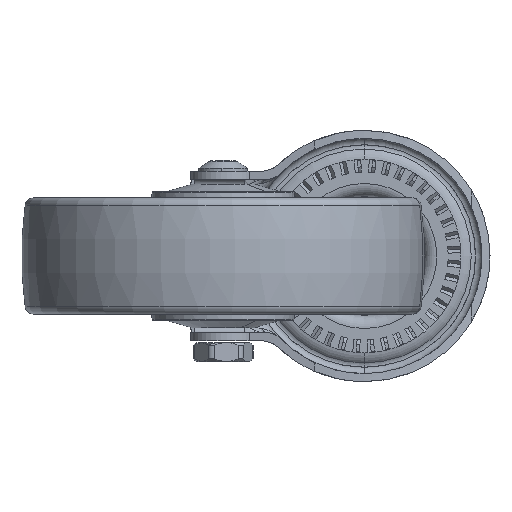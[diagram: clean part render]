
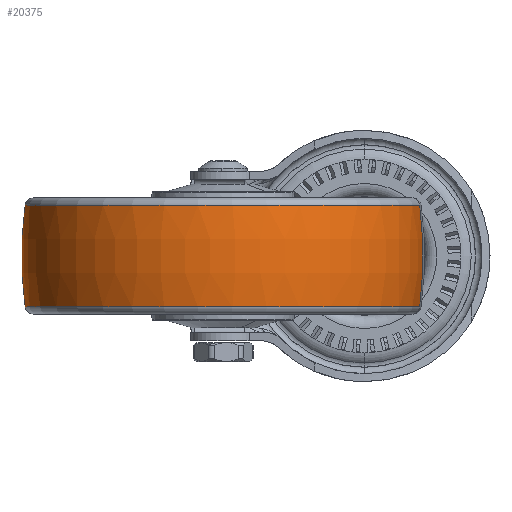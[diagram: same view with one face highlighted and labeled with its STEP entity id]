
A CAD part, front view. The second image highlights one B-rep face of the part: STEP entity #20375.
In plain terms, the highlighted toroidal (fillet/blend) face has major radius 62.5 mm and minor radius 125 mm.
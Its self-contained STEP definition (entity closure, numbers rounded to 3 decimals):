
#13706 = DIRECTION ( 'NONE',  ( -0.127, -0.992, 0. ) ) ;
#13707 = CARTESIAN_POINT ( 'NONE',  ( 57.422, -31.121, 21.789 ) ) ;
#13708 = AXIS2_PLACEMENT_3D ( 'NONE', #13707, #13706, #13930 ) ;
#13729 = CIRCLE ( 'NONE', #13708, 125. ) ;
#13818 = CARTESIAN_POINT ( 'NONE',  ( -65.569, -15.366, 37.605 ) ) ;
#13834 = CARTESIAN_POINT ( 'NONE',  ( -65.569, -15.366, 5.972 ) ) ;
#13836 = DIRECTION ( 'NONE',  ( -0.992, 0.127, 0. ) ) ;
#13837 = DIRECTION ( 'NONE',  ( 0.127, 0.992, 0. ) ) ;
#13840 = AXIS2_PLACEMENT_3D ( 'NONE', #13849, #13837, #13836 ) ;
#13844 = CARTESIAN_POINT ( 'NONE',  ( 56.425, -30.994, 5.972 ) ) ;
#13849 = CARTESIAN_POINT ( 'NONE',  ( -66.565, -15.239, 21.789 ) ) ;
#13851 = CIRCLE ( 'NONE', #13840, 125. ) ;
#13930 = DIRECTION ( 'NONE',  ( 0.992, -0.127, 0. ) ) ;
#14396 = VERTEX_POINT ( 'NONE', #13818 ) ;
#14456 = CARTESIAN_POINT ( 'NONE',  ( 56.425, -30.994, 37.605 ) ) ;
#14569 = EDGE_CURVE ( 'NONE', #15370, #14603, #13851, .T. ) ;
#14603 = VERTEX_POINT ( 'NONE', #13844 ) ;
#14617 = VERTEX_POINT ( 'NONE', #13834 ) ;
#15221 = EDGE_CURVE ( 'NONE', #14396, #14617, #13729, .T. ) ;
#15370 = VERTEX_POINT ( 'NONE', #14456 ) ;
#16060 = EDGE_CURVE ( 'NONE', #15370, #14396, #17002, .T. ) ;
#16978 = DIRECTION ( 'NONE',  ( -0.992, 0.127, 0. ) ) ;
#16979 = DIRECTION ( 'NONE',  ( 0., 0., -1. ) ) ;
#16980 = CARTESIAN_POINT ( 'NONE',  ( -4.572, -23.18, 37.605 ) ) ;
#16989 = AXIS2_PLACEMENT_3D ( 'NONE', #16980, #16979, #16978 ) ;
#17002 = CIRCLE ( 'NONE', #16989, 61.495 ) ;
#18032 = DIRECTION ( 'NONE',  ( -0.992, 0.127, 0. ) ) ;
#18033 = DIRECTION ( 'NONE',  ( 0., 0., -1. ) ) ;
#18034 = AXIS2_PLACEMENT_3D ( 'NONE', #18040, #18033, #18032 ) ;
#18040 = CARTESIAN_POINT ( 'NONE',  ( -4.572, -23.18, 5.972 ) ) ;
#18041 = CIRCLE ( 'NONE', #18034, 61.495 ) ;
#18902 = DIRECTION ( 'NONE',  ( -0.992, 0.127, 0. ) ) ;
#18905 = FACE_OUTER_BOUND ( 'NONE', #19924, .T. ) ;
#18918 = DIRECTION ( 'NONE',  ( 0., 0., -1. ) ) ;
#18919 = CARTESIAN_POINT ( 'NONE',  ( -4.572, -23.18, 21.789 ) ) ;
#18920 = TOROIDAL_SURFACE ( 'NONE', #18921, -62.5, 125. ) ;
#18921 = AXIS2_PLACEMENT_3D ( 'NONE', #18919, #18918, #18902 ) ;
#19787 = ORIENTED_EDGE ( 'NONE', *, *, #16060, .T. ) ;
#19923 = ORIENTED_EDGE ( 'NONE', *, *, #14569, .F. ) ;
#19924 = EDGE_LOOP ( 'NONE', ( #19923, #19787, #20378, #20382 ) ) ;
#19925 = EDGE_CURVE ( 'NONE', #14603, #14617, #18041, .T. ) ;
#20375 = ADVANCED_FACE ( 'NONE', ( #18905 ), #18920, .T. ) ;
#20378 = ORIENTED_EDGE ( 'NONE', *, *, #15221, .T. ) ;
#20382 = ORIENTED_EDGE ( 'NONE', *, *, #19925, .F. ) ;
